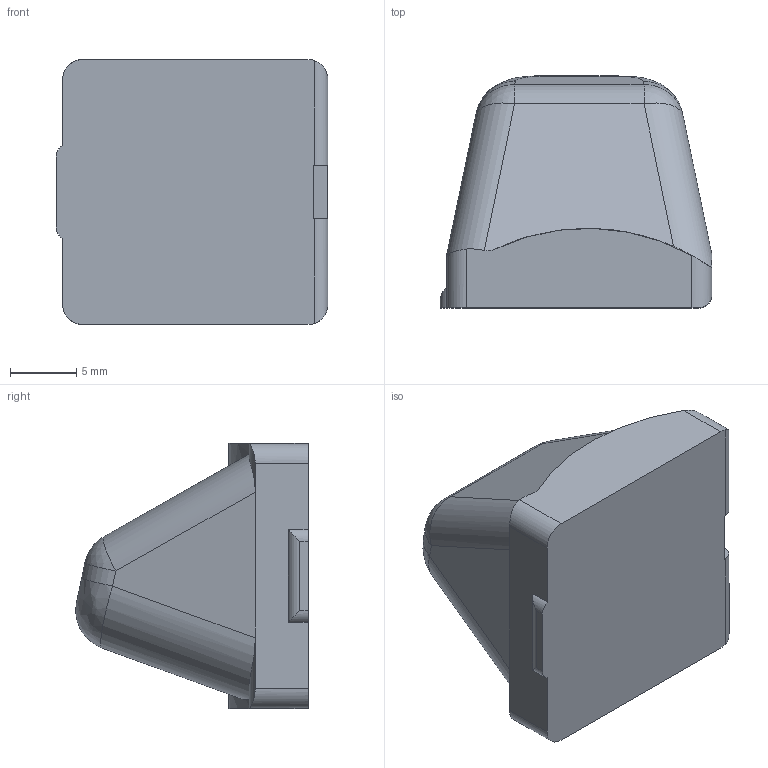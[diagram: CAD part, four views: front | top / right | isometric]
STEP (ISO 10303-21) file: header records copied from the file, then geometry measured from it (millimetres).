
FILE_DESCRIPTION(/* description */ (''),/* implementation_level */ '2;1');
FILE_NAME(/* name */ 'Modular Brass Deflector Normal v2.step',/* time_stamp */ '2022-12-09T17:21:01-05:00',/* author */ (''),/* organization */ (''),/* preprocessor_version */ 'ST-DEVELOPER v19.2',/* originating_system */ 'Autodesk Translation Framework v11.17.0.187',/* authorisation */ '');
FILE_SCHEMA (('AUTOMOTIVE_DESIGN { 1 0 10303 214 3 1 1 }'));
Length unit declared in the file: millimetre
Products named in the file (1): Modular Brass Deflector Normal
Bounding box: 20.5 x 17.53 x 20 mm (x, y, z)
Volume: 4442.4 mm3; surface area: 1592.7 mm2
Topology: 1 solids, 1 shells, 42 faces, 108 edges, 68 vertices
Faces by surface type: cylinder 23, plane 15, sphere 2, bspline 2
Entity records: 1423 total; most frequent: CARTESIAN_POINT 367, ORIENTED_EDGE 216, DIRECTION 214, EDGE_CURVE 108, AXIS2_PLACEMENT_3D 77, VERTEX_POINT 68, LINE 60, VECTOR 60
